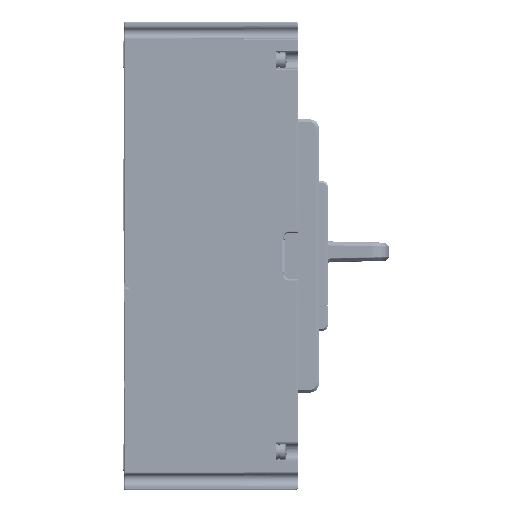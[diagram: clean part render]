
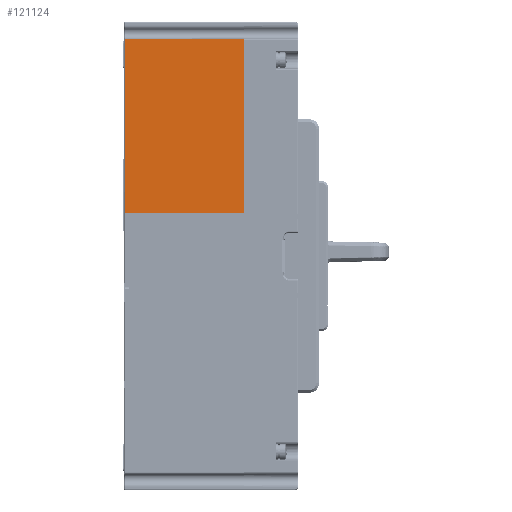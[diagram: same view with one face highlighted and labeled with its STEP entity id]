
A CAD part, left-side view. The second image highlights one B-rep face of the part: STEP entity #121124.
In plain terms, the highlighted planar face has unit normal (-1, 0, 0) as drawn and (0, 0, 1) by its records, which use the part's own axes.
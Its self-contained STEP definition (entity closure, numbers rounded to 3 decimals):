
#6477=DIRECTION('',(0.,-1.,0.));
#6478=VECTOR('',#6477,65.2);
#6479=CARTESIAN_POINT('',(-119.25,20.8,75.));
#6480=LINE('',#6479,#6478);
#6508=DIRECTION('',(1.,0.,0.));
#6509=VECTOR('',#6508,95.75);
#6510=CARTESIAN_POINT('',(-119.25,-44.4,75.));
#6511=LINE('',#6510,#6509);
#41721=DIRECTION('',(1.,0.,0.));
#41722=VECTOR('',#41721,95.75);
#41723=CARTESIAN_POINT('',(-119.25,20.8,75.));
#41724=LINE('',#41723,#41722);
#41725=DIRECTION('',(0.,-1.,0.));
#41726=VECTOR('',#41725,65.2);
#41727=CARTESIAN_POINT('',(-23.5,20.8,75.));
#41728=LINE('',#41727,#41726);
#48700=CARTESIAN_POINT('',(-119.25,-44.4,75.));
#48701=CARTESIAN_POINT('',(-23.5,-44.4,75.));
#48702=VERTEX_POINT('',#48700);
#48703=VERTEX_POINT('',#48701);
#48704=CARTESIAN_POINT('',(-119.25,20.8,75.));
#48705=VERTEX_POINT('',#48704);
#48706=CARTESIAN_POINT('',(-23.5,20.8,75.));
#48707=VERTEX_POINT('',#48706);
#121113=CARTESIAN_POINT('',(0.,0.,75.));
#121114=DIRECTION('',(0.,0.,1.));
#121115=DIRECTION('',(1.,0.,0.));
#121116=AXIS2_PLACEMENT_3D('',#121113,#121114,#121115);
#121117=PLANE('',#121116);
#121118=ORIENTED_EDGE('',*,*,#70238,.F.);
#121119=ORIENTED_EDGE('',*,*,#70208,.F.);
#121120=ORIENTED_EDGE('',*,*,#64498,.T.);
#121121=ORIENTED_EDGE('',*,*,#70254,.T.);
#121122=EDGE_LOOP('',(#121118,#121119,#121120,#121121));
#121123=FACE_OUTER_BOUND('',#121122,.F.);
#121124=ADVANCED_FACE('',(#121123),#121117,.T.);
#64498=EDGE_CURVE('',#48705,#48707,#41724,.T.);
#70208=EDGE_CURVE('',#48705,#48702,#6480,.T.);
#70238=EDGE_CURVE('',#48702,#48703,#6511,.T.);
#70254=EDGE_CURVE('',#48707,#48703,#41728,.T.);
